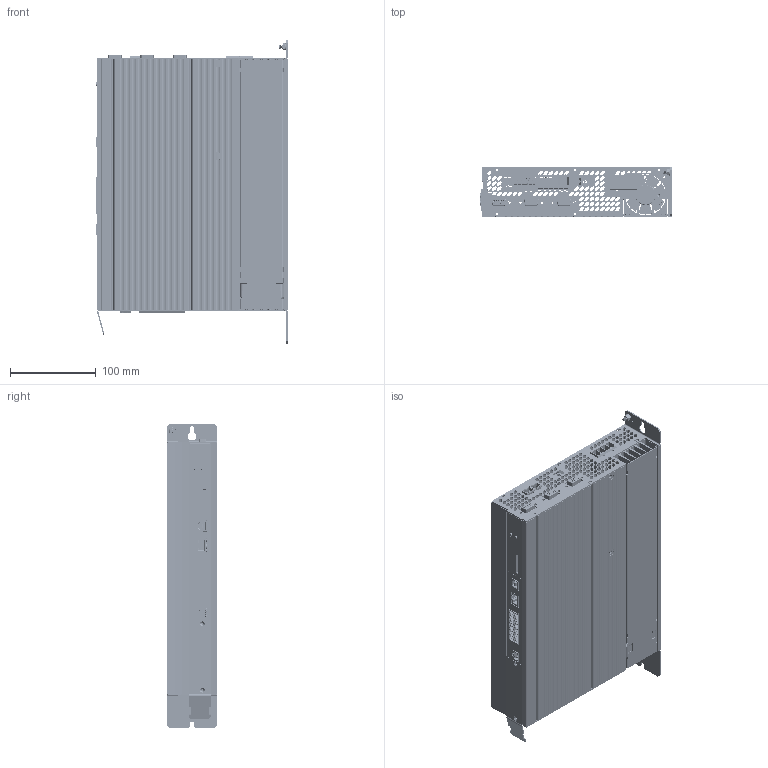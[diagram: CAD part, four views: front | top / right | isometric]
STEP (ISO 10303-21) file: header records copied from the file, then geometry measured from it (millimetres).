
FILE_DESCRIPTION(/* description */ (''),/* implementation_level */ '2;1');
FILE_NAME(/* name */ 'DNS501',/* time_stamp */ '2009-01-22T09:37:32+01:00',/* author */ (''),/* organization */ (''),/* preprocessor_version */ 'ST-DEVELOPER v9',/* originating_system */ 'UGS - NX 4.0',/* authorisation */ '');
FILE_SCHEMA (('AUTOMOTIVE_DESIGN { 1 0 10303 214 1 1 1 1 }'));
Length unit declared in the file: millimetre
Products named in the file (1): sdum31ACv457
Bounding box: 224.25 x 58.5 x 354.5 mm (x, y, z)
Volume: 884173.8 mm3; surface area: 640426.7 mm2
Topology: 39 solids, 39 shells, 6078 faces, 15924 edges, 10309 vertices
Faces by surface type: plane 4235, cylinder 1017, extrusion 548, cone 183, torus 43, bspline 34, revolution 11, sphere 7
Full cylindrical faces by diameter (mm): 0.434 x4, 0.457 x3, 0.58 x4, 0.7 x39, 0.8 x12, 1 x2, 1.2 x24, 1.3 x61, 1.4 x8, 1.6 x22, 2.5 x8, 2.6 x6, 2.8 x4, 3 x11, 3.2 x15, 3.3 x20, 3.6 x8, 3.7 x4, 3.869 x2, 4 x15, 4.2 x4, 4.22 x2, 4.25 x2, 4.3 x2, 4.5 x4, 4.6 x3, 5.415 x1, 5.5 x2, 5.6 x7, 6 x6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
Entity records: 228199 total; most frequent: CARTESIAN_POINT 36657, DIRECTION 30323, ORIENTED_EDGE 29868, EDGE_CURVE 14934, VECTOR 11570, LINE 11022, VERTEX_POINT 10191, AXIS2_PLACEMENT_3D 9371
